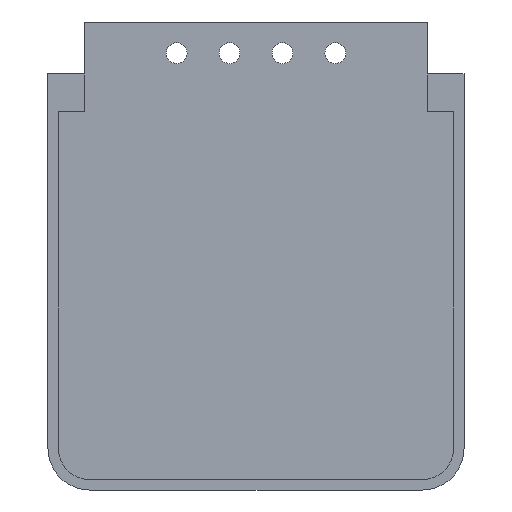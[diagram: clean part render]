
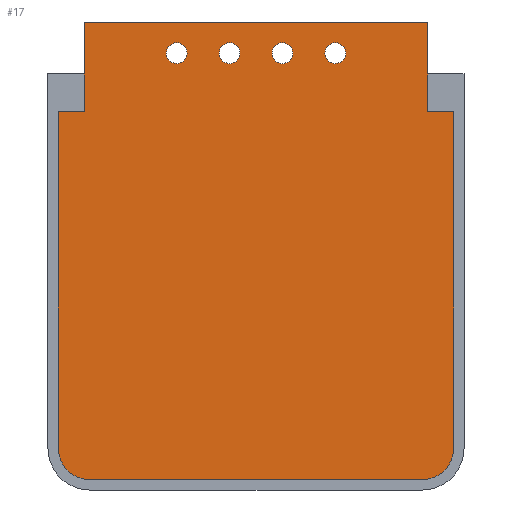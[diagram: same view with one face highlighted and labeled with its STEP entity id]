
A CAD part, front view. The second image highlights one B-rep face of the part: STEP entity #17.
In plain terms, the highlighted planar face has unit normal (0, -1, 0).
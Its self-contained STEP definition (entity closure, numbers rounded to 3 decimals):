
#11 = AXIS2_PLACEMENT_3D ( 'NONE', #706, #628, #1008 ) ;
#13 = EDGE_CURVE ( 'NONE', #169, #900, #541, .T. ) ;
#16 = DIRECTION ( 'NONE',  ( 0., -1., 0. ) ) ;
#17 = ADVANCED_FACE ( 'NONE', ( #695, #749, #92, #282, #618 ), #753, .T. ) ;
#19 = DIRECTION ( 'NONE',  ( 0., -1., 0. ) ) ;
#39 = AXIS2_PLACEMENT_3D ( 'NONE', #903, #19, #263 ) ;
#41 = VECTOR ( 'NONE', #999, 1000. ) ;
#50 = CARTESIAN_POINT ( 'NONE',  ( 8.25, -7.6, 10. ) ) ;
#53 = CARTESIAN_POINT ( 'NONE',  ( 9.5, -7.6, 8.2 ) ) ;
#60 = DIRECTION ( 'NONE',  ( 0., 0., -1. ) ) ;
#61 = LINE ( 'NONE', #53, #931 ) ;
#77 = EDGE_CURVE ( 'NONE', #606, #1037, #704, .T. ) ;
#92 = FACE_OUTER_BOUND ( 'NONE', #989, .T. ) ;
#104 = CARTESIAN_POINT ( 'NONE',  ( 8.25, -7.6, 8.2 ) ) ;
#106 = VERTEX_POINT ( 'NONE', #1010 ) ;
#107 = VERTEX_POINT ( 'NONE', #235 ) ;
#118 = ORIENTED_EDGE ( 'NONE', *, *, #920, .F. ) ;
#135 = VERTEX_POINT ( 'NONE', #373 ) ;
#142 = CARTESIAN_POINT ( 'NONE',  ( 8., -7.6, -9.5 ) ) ;
#147 = CARTESIAN_POINT ( 'NONE',  ( 8.25, -7.6, 12.5 ) ) ;
#154 = AXIS2_PLACEMENT_3D ( 'NONE', #835, #16, #692 ) ;
#159 = VECTOR ( 'NONE', #925, 1000. ) ;
#169 = VERTEX_POINT ( 'NONE', #50 ) ;
#176 = DIRECTION ( 'NONE',  ( 0., 0., 1. ) ) ;
#197 = VERTEX_POINT ( 'NONE', #142 ) ;
#202 = EDGE_CURVE ( 'NONE', #339, #455, #964, .T. ) ;
#203 = CIRCLE ( 'NONE', #548, 0.5 ) ;
#208 = EDGE_LOOP ( 'NONE', ( #860 ) ) ;
#210 = VECTOR ( 'NONE', #480, 1000. ) ;
#220 = CARTESIAN_POINT ( 'NONE',  ( 8.25, -7.6, 10. ) ) ;
#221 = ORIENTED_EDGE ( 'NONE', *, *, #810, .F. ) ;
#225 = VECTOR ( 'NONE', #958, 1000. ) ;
#229 = CARTESIAN_POINT ( 'NONE',  ( -1.27, -7.6, 10.5 ) ) ;
#235 = CARTESIAN_POINT ( 'NONE',  ( 1.27, -7.6, 10.5 ) ) ;
#253 = CARTESIAN_POINT ( 'NONE',  ( -9.5, -7.6, 8.2 ) ) ;
#256 = ORIENTED_EDGE ( 'NONE', *, *, #790, .F. ) ;
#263 = DIRECTION ( 'NONE',  ( 0., 0., -1. ) ) ;
#282 = FACE_BOUND ( 'NONE', #966, .T. ) ;
#284 = ORIENTED_EDGE ( 'NONE', *, *, #374, .T. ) ;
#286 = ORIENTED_EDGE ( 'NONE', *, *, #596, .T. ) ;
#287 = VERTEX_POINT ( 'NONE', #805 ) ;
#289 = ORIENTED_EDGE ( 'NONE', *, *, #202, .T. ) ;
#294 = EDGE_CURVE ( 'NONE', #197, #135, #821, .T. ) ;
#295 = VECTOR ( 'NONE', #306, 1000. ) ;
#305 = CARTESIAN_POINT ( 'NONE',  ( -8.25, -7.6, 12.5 ) ) ;
#306 = DIRECTION ( 'NONE',  ( 0., 0., 1. ) ) ;
#313 = VECTOR ( 'NONE', #176, 1000. ) ;
#322 = DIRECTION ( 'NONE',  ( 0., -1., 0. ) ) ;
#324 = CARTESIAN_POINT ( 'NONE',  ( 3.81, -7.6, 10.5 ) ) ;
#330 = CIRCLE ( 'NONE', #756, 0.5 ) ;
#332 = DIRECTION ( 'NONE',  ( -1., 0., 0. ) ) ;
#338 = ORIENTED_EDGE ( 'NONE', *, *, #1011, .T. ) ;
#339 = VERTEX_POINT ( 'NONE', #413 ) ;
#344 = DIRECTION ( 'NONE',  ( 0., 0., -1. ) ) ;
#351 = EDGE_CURVE ( 'NONE', #1017, #1017, #203, .T. ) ;
#352 = ORIENTED_EDGE ( 'NONE', *, *, #1005, .T. ) ;
#354 = ORIENTED_EDGE ( 'NONE', *, *, #351, .F. ) ;
#363 = VECTOR ( 'NONE', #332, 1000. ) ;
#373 = CARTESIAN_POINT ( 'NONE',  ( 9.5, -7.6, -8. ) ) ;
#374 = EDGE_CURVE ( 'NONE', #1037, #339, #1047, .T. ) ;
#376 = LINE ( 'NONE', #518, #159 ) ;
#381 = DIRECTION ( 'NONE',  ( -1., 0., 0. ) ) ;
#382 = CARTESIAN_POINT ( 'NONE',  ( 9.5, -7.6, -8. ) ) ;
#384 = CARTESIAN_POINT ( 'NONE',  ( -8.25, -7.6, 10. ) ) ;
#399 = ORIENTED_EDGE ( 'NONE', *, *, #778, .T. ) ;
#402 = DIRECTION ( 'NONE',  ( 0., 0., -1. ) ) ;
#413 = CARTESIAN_POINT ( 'NONE',  ( -9.5, -7.6, 8.2 ) ) ;
#414 = CARTESIAN_POINT ( 'NONE',  ( -9.5, -7.6, -8. ) ) ;
#415 = AXIS2_PLACEMENT_3D ( 'NONE', #882, #322, #402 ) ;
#423 = DIRECTION ( 'NONE',  ( 0., -1., 0. ) ) ;
#433 = LINE ( 'NONE', #382, #210 ) ;
#448 = VECTOR ( 'NONE', #720, 1000. ) ;
#455 = VERTEX_POINT ( 'NONE', #414 ) ;
#463 = CARTESIAN_POINT ( 'NONE',  ( 9.5, -7.6, 8.2 ) ) ;
#467 = DIRECTION ( 'NONE',  ( 0., 0., -1. ) ) ;
#480 = DIRECTION ( 'NONE',  ( 0., 0., 1. ) ) ;
#501 = ORIENTED_EDGE ( 'NONE', *, *, #611, .F. ) ;
#506 = DIRECTION ( 'NONE',  ( 0., 0., -1. ) ) ;
#518 = CARTESIAN_POINT ( 'NONE',  ( -8., -7.6, -9.5 ) ) ;
#530 = LINE ( 'NONE', #305, #448 ) ;
#532 = EDGE_CURVE ( 'NONE', #455, #106, #590, .T. ) ;
#541 = LINE ( 'NONE', #599, #313 ) ;
#548 = AXIS2_PLACEMENT_3D ( 'NONE', #677, #818, #506 ) ;
#557 = VERTEX_POINT ( 'NONE', #104 ) ;
#590 = CIRCLE ( 'NONE', #154, 1.5 ) ;
#596 = EDGE_CURVE ( 'NONE', #106, #197, #376, .T. ) ;
#599 = CARTESIAN_POINT ( 'NONE',  ( 8.25, -7.6, 10. ) ) ;
#606 = VERTEX_POINT ( 'NONE', #614 ) ;
#611 = EDGE_CURVE ( 'NONE', #107, #107, #782, .T. ) ;
#614 = CARTESIAN_POINT ( 'NONE',  ( -8.25, -7.6, 10. ) ) ;
#618 = FACE_BOUND ( 'NONE', #208, .T. ) ;
#628 = DIRECTION ( 'NONE',  ( 0., -1., 0. ) ) ;
#655 = CARTESIAN_POINT ( 'NONE',  ( -9.5, -7.6, 8.2 ) ) ;
#662 = ORIENTED_EDGE ( 'NONE', *, *, #13, .T. ) ;
#677 = CARTESIAN_POINT ( 'NONE',  ( -1.27, -7.6, 11. ) ) ;
#692 = DIRECTION ( 'NONE',  ( 0., 0., -1. ) ) ;
#695 = FACE_BOUND ( 'NONE', #1022, .T. ) ;
#704 = LINE ( 'NONE', #1004, #41 ) ;
#706 = CARTESIAN_POINT ( 'NONE',  ( 1.27, -7.6, 11. ) ) ;
#714 = LINE ( 'NONE', #384, #225 ) ;
#720 = DIRECTION ( 'NONE',  ( 1., 0., 0. ) ) ;
#732 = VERTEX_POINT ( 'NONE', #780 ) ;
#749 = FACE_BOUND ( 'NONE', #916, .T. ) ;
#753 = PLANE ( 'NONE',  #39 ) ;
#756 = AXIS2_PLACEMENT_3D ( 'NONE', #870, #953, #467 ) ;
#778 = EDGE_CURVE ( 'NONE', #779, #557, #61, .T. ) ;
#779 = VERTEX_POINT ( 'NONE', #463 ) ;
#780 = CARTESIAN_POINT ( 'NONE',  ( -8.25, -7.6, 12.5 ) ) ;
#782 = CIRCLE ( 'NONE', #11, 0.5 ) ;
#786 = ORIENTED_EDGE ( 'NONE', *, *, #294, .T. ) ;
#790 = EDGE_CURVE ( 'NONE', #732, #900, #530, .T. ) ;
#805 = CARTESIAN_POINT ( 'NONE',  ( -3.81, -7.6, 10.5 ) ) ;
#808 = AXIS2_PLACEMENT_3D ( 'NONE', #923, #423, #344 ) ;
#810 = EDGE_CURVE ( 'NONE', #606, #732, #714, .T. ) ;
#818 = DIRECTION ( 'NONE',  ( 0., -1., 0. ) ) ;
#821 = CIRCLE ( 'NONE', #415, 1.5 ) ;
#835 = CARTESIAN_POINT ( 'NONE',  ( -8., -7.6, -8. ) ) ;
#852 = ORIENTED_EDGE ( 'NONE', *, *, #532, .T. ) ;
#855 = CIRCLE ( 'NONE', #808, 0.5 ) ;
#860 = ORIENTED_EDGE ( 'NONE', *, *, #865, .F. ) ;
#865 = EDGE_CURVE ( 'NONE', #287, #287, #330, .T. ) ;
#870 = CARTESIAN_POINT ( 'NONE',  ( -3.81, -7.6, 11. ) ) ;
#882 = CARTESIAN_POINT ( 'NONE',  ( 8., -7.6, -8. ) ) ;
#900 = VERTEX_POINT ( 'NONE', #147 ) ;
#903 = CARTESIAN_POINT ( 'NONE',  ( 8., -7.6, -8. ) ) ;
#916 = EDGE_LOOP ( 'NONE', ( #118 ) ) ;
#920 = EDGE_CURVE ( 'NONE', #954, #954, #855, .T. ) ;
#923 = CARTESIAN_POINT ( 'NONE',  ( 3.81, -7.6, 11. ) ) ;
#925 = DIRECTION ( 'NONE',  ( 1., 0., 0. ) ) ;
#931 = VECTOR ( 'NONE', #381, 1000. ) ;
#952 = VECTOR ( 'NONE', #60, 1000. ) ;
#953 = DIRECTION ( 'NONE',  ( 0., -1., 0. ) ) ;
#954 = VERTEX_POINT ( 'NONE', #324 ) ;
#958 = DIRECTION ( 'NONE',  ( 0., 0., 1. ) ) ;
#959 = CARTESIAN_POINT ( 'NONE',  ( -8.25, -7.6, 8.2 ) ) ;
#964 = LINE ( 'NONE', #655, #952 ) ;
#966 = EDGE_LOOP ( 'NONE', ( #354 ) ) ;
#989 = EDGE_LOOP ( 'NONE', ( #352, #662, #256, #221, #1000, #284, #289, #852, #286, #786, #338, #399 ) ) ;
#999 = DIRECTION ( 'NONE',  ( 0., 0., -1. ) ) ;
#1000 = ORIENTED_EDGE ( 'NONE', *, *, #77, .T. ) ;
#1001 = LINE ( 'NONE', #220, #295 ) ;
#1004 = CARTESIAN_POINT ( 'NONE',  ( -8.25, -7.6, 10. ) ) ;
#1005 = EDGE_CURVE ( 'NONE', #557, #169, #1001, .T. ) ;
#1008 = DIRECTION ( 'NONE',  ( 0., 0., -1. ) ) ;
#1010 = CARTESIAN_POINT ( 'NONE',  ( -8., -7.6, -9.5 ) ) ;
#1011 = EDGE_CURVE ( 'NONE', #135, #779, #433, .T. ) ;
#1017 = VERTEX_POINT ( 'NONE', #229 ) ;
#1022 = EDGE_LOOP ( 'NONE', ( #501 ) ) ;
#1037 = VERTEX_POINT ( 'NONE', #959 ) ;
#1047 = LINE ( 'NONE', #253, #363 ) ;
